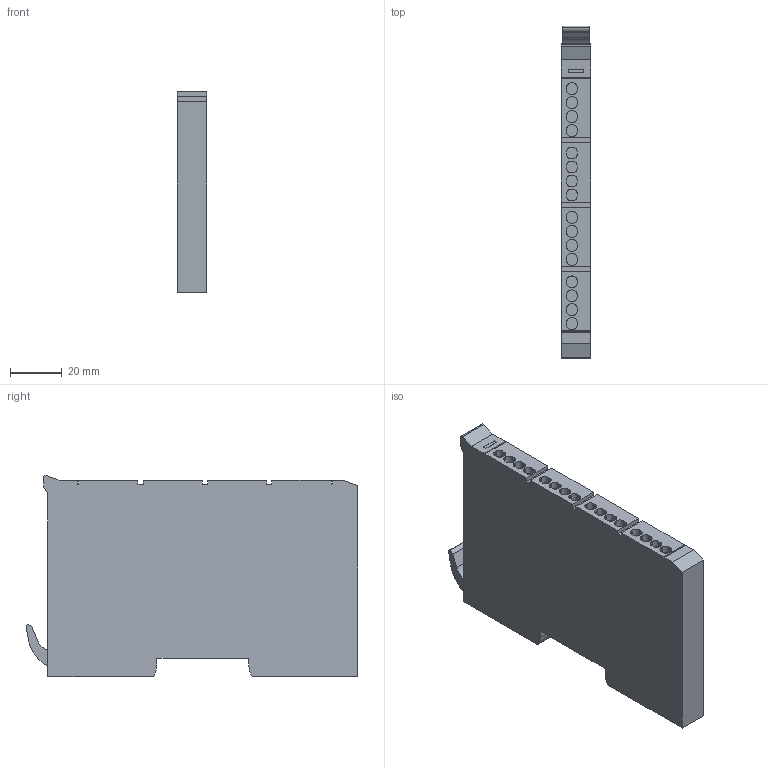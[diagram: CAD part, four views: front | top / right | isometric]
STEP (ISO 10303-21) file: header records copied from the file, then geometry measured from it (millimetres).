
FILE_DESCRIPTION((''),'2;1');
FILE_NAME('NZ2FTS4-4DE_0','2019-03-27T',('XE51514'),(''),'CREO PARAMETRIC BY PTC INC, 2017480','CREO PARAMETRIC BY PTC INC, 2017480','');
FILE_SCHEMA(('CONFIG_CONTROL_DESIGN'));
Length unit declared in the file: millimetre
Products named in the file (1): NZ2FTS4-4DE_0
Bounding box: 11.5 x 127.88 x 77.45 mm (x, y, z)
Volume: 100720.6 mm3; surface area: 23431.9 mm2
Topology: 1 solids, 1 shells, 198 faces, 538 edges, 360 vertices
Faces by surface type: plane 127, cylinder 71
Entity records: 6298 total; most frequent: CARTESIAN_POINT 1096, DIRECTION 1080, ORIENTED_EDGE 1076, EDGE_CURVE 538, VECTOR 392, LINE 392, VERTEX_POINT 360, AXIS2_PLACEMENT_3D 344
